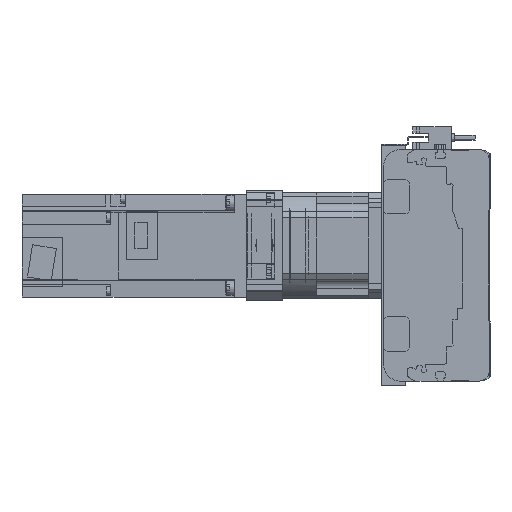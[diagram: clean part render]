
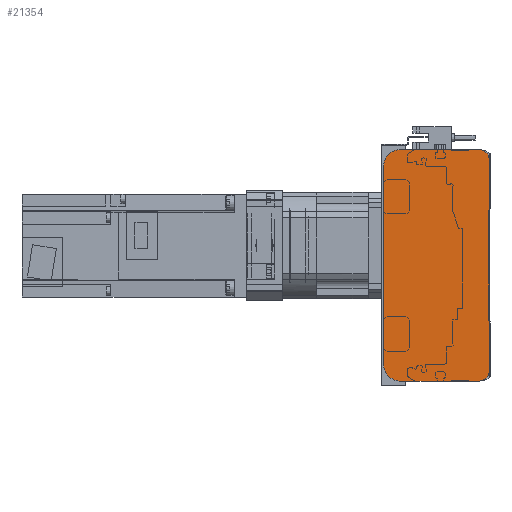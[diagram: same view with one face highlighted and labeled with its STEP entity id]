
A CAD part, left-side view. The second image highlights one B-rep face of the part: STEP entity #21354.
In plain terms, the highlighted planar face has unit normal (-1, 0, 0).
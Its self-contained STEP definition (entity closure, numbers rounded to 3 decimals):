
#1396=CIRCLE('',#23391,5.);
#1397=CIRCLE('',#23394,5.);
#1398=CIRCLE('',#23397,10.);
#1399=CIRCLE('',#23400,10.);
#6235=ORIENTED_EDGE('',*,*,#9703,.F.);
#6236=ORIENTED_EDGE('',*,*,#9860,.F.);
#6237=ORIENTED_EDGE('',*,*,#9852,.F.);
#6238=ORIENTED_EDGE('',*,*,#9850,.F.);
#6239=ORIENTED_EDGE('',*,*,#9475,.F.);
#6240=ORIENTED_EDGE('',*,*,#9849,.F.);
#6241=ORIENTED_EDGE('',*,*,#9847,.F.);
#6242=ORIENTED_EDGE('',*,*,#9845,.F.);
#6243=ORIENTED_EDGE('',*,*,#9843,.F.);
#6244=ORIENTED_EDGE('',*,*,#9841,.F.);
#9475=EDGE_CURVE('',#11790,#11791,#13660,.T.);
#9703=EDGE_CURVE('',#11891,#11892,#13803,.T.);
#9841=EDGE_CURVE('',#11892,#11975,#13932,.T.);
#9843=EDGE_CURVE('',#11975,#11976,#1396,.T.);
#9845=EDGE_CURVE('',#11976,#11977,#13935,.T.);
#9847=EDGE_CURVE('',#11977,#11978,#1397,.T.);
#9849=EDGE_CURVE('',#11978,#11790,#13938,.T.);
#9850=EDGE_CURVE('',#11791,#11979,#1398,.T.);
#9852=EDGE_CURVE('',#11979,#11980,#13940,.T.);
#9860=EDGE_CURVE('',#11980,#11891,#1399,.T.);
#11790=VERTEX_POINT('',#35280);
#11791=VERTEX_POINT('',#35282);
#11891=VERTEX_POINT('',#35685);
#11892=VERTEX_POINT('',#35687);
#11975=VERTEX_POINT('',#35964);
#11976=VERTEX_POINT('',#35968);
#11977=VERTEX_POINT('',#35972);
#11978=VERTEX_POINT('',#35976);
#11979=VERTEX_POINT('',#35982);
#11980=VERTEX_POINT('',#35986);
#13660=LINE('',#35281,#15473);
#13803=LINE('',#35686,#15616);
#13932=LINE('',#35963,#15745);
#13935=LINE('',#35971,#15748);
#13938=LINE('',#35979,#15751);
#13940=LINE('',#35985,#15753);
#15473=VECTOR('',#28248,1000.);
#15616=VECTOR('',#28713,1000.);
#15745=VECTOR('',#28972,1000.);
#15748=VECTOR('',#28981,1000.);
#15751=VECTOR('',#28990,1000.);
#15753=VECTOR('',#28998,1000.);
#17213=EDGE_LOOP('',(#6235,#6236,#6237,#6238,#6239,#6240,#6241,#6242,#6243,
#6244));
#19132=FACE_BOUND('',#17213,.T.);
#20263=PLANE('',#23401);
#21354=ADVANCED_FACE('',(#19132),#20263,.F.);
#23391=AXIS2_PLACEMENT_3D('',#35967,#28976,#28977);
#23394=AXIS2_PLACEMENT_3D('',#35975,#28985,#28986);
#23397=AXIS2_PLACEMENT_3D('',#35981,#28993,#28994);
#23400=AXIS2_PLACEMENT_3D('',#35999,#29008,#29009);
#23401=AXIS2_PLACEMENT_3D('',#36000,#29010,#29011);
#28248=DIRECTION('',(0.,1.,0.));
#28713=DIRECTION('',(0.,-1.,0.));
#28972=DIRECTION('',(0.,-0.942,-0.336));
#28976=DIRECTION('',(1.,0.,0.));
#28977=DIRECTION('',(0.,0.,-1.));
#28981=DIRECTION('',(0.,0.,-1.));
#28985=DIRECTION('',(1.,0.,0.));
#28986=DIRECTION('',(0.,0.,-1.));
#28990=DIRECTION('',(0.,0.942,-0.336));
#28993=DIRECTION('',(1.,0.,0.));
#28994=DIRECTION('',(0.,0.,-1.));
#28998=DIRECTION('',(0.,0.,1.));
#29008=DIRECTION('',(1.,0.,0.));
#29009=DIRECTION('',(0.,0.,-1.));
#29010=DIRECTION('',(1.,0.,0.));
#29011=DIRECTION('',(0.,0.,-1.));
#35280=CARTESIAN_POINT('',(-10.,6.,-67.5));
#35281=CARTESIAN_POINT('',(-10.,6.,-67.5));
#35282=CARTESIAN_POINT('',(-10.,52.,-67.5));
#35685=CARTESIAN_POINT('',(-10.,52.,67.5));
#35686=CARTESIAN_POINT('',(-10.,52.,67.5));
#35687=CARTESIAN_POINT('',(-10.,6.,67.5));
#35963=CARTESIAN_POINT('',(-10.,6.,67.5));
#35964=CARTESIAN_POINT('',(-10.,3.822,66.724));
#35967=CARTESIAN_POINT('',(-10.,5.5,62.014));
#35968=CARTESIAN_POINT('',(-10.,0.5,62.014));
#35971=CARTESIAN_POINT('',(-10.,0.5,62.014));
#35972=CARTESIAN_POINT('',(-10.,0.5,-62.014));
#35975=CARTESIAN_POINT('',(-10.,5.5,-62.014));
#35976=CARTESIAN_POINT('',(-10.,3.822,-66.724));
#35979=CARTESIAN_POINT('',(-10.,3.822,-66.724));
#35981=CARTESIAN_POINT('',(-10.,52.,-57.5));
#35982=CARTESIAN_POINT('',(-10.,62.,-57.5));
#35985=CARTESIAN_POINT('',(-10.,62.,-57.5));
#35986=CARTESIAN_POINT('',(-10.,62.,57.5));
#35999=CARTESIAN_POINT('',(-10.,52.,57.5));
#36000=CARTESIAN_POINT('',(-10.,5.5,62.014));
